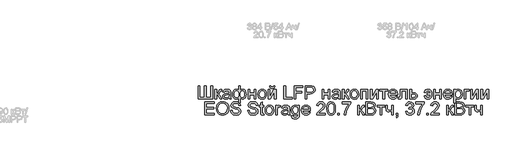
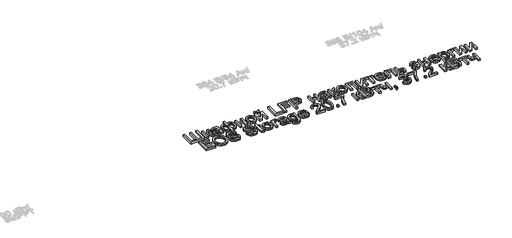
# One storey, part 25 of 26: 1 proxy.
"""IFC4 building model written with IfcOpenShell, lengths in millimetres."""

from ifc_helpers import new_model, si_unit, origin, origin_with_axes, place, context, project, spatial, polyline, outline, extrude, element, save

model = new_model("IFC4")

# Units and contexts
model_context = context("Model", 3, world=origin())
ifc_project = project(units=[si_unit("LENGTHUNIT", "METRE", prefix="MILLI")], contexts=[model_context])

# Site, building, storey
site = spatial("IfcSite", under=ifc_project)
building = spatial("IfcBuilding", under=site)
storey = spatial("IfcBuildingStorey", under=building, Name="Этаж 01", Elevation=0.0)

# Proxy
placement = place(None, origin())
element("IfcBuildingElementProxy", 1, Name="150 мм Arial", ObjectType="150 мм Arial", at=placement, inside=storey, context=model_context, shape_type="SweptSolid", body=[
    extrude(outline(polyline([(13904.114669, -6688.2513216), (13922.9502272, -6688.2513216), (13922.9502272, -6820.1002287), (13977.1024569, -6820.1002287), (13977.1024569, -6688.2513216), (13995.938015, -6688.2513216), (13995.938015, -6820.1002287), (14050.0902447, -6820.1002287), (14050.0902447, -6688.2513216), (14068.9258029, -6688.2513216), (14068.9258029, -6838.9357868), (13904.114669, -6838.9357868), (13904.114669, -6688.2513216)])), origin_with_axes(), (0.0, 0.0, 1.0), 20.0),
    extrude(outline(polyline([(14097.1791401, -6728.2768827), (14116.0146983, -6728.2768827), (14116.0146983, -6775.365778), (14128.6330507, -6771.9812637), (14138.9705348, -6752.2627887), (14147.5605794, -6735.2482465), (14155.1389485, -6729.7116224), (14168.9161292, -6728.2768827), (14172.5213727, -6728.2768827), (14172.5213727, -6747.2228054), (14167.4446012, -6747.1124408), (14158.2475513, -6749.0990036), (14151.7728282, -6761.4966268), (14144.176065, -6774.9059255), (14133.5258812, -6781.4726192), (14145.4084697, -6788.8026679), (14157.0703289, -6804.2445147), (14177.2302623, -6838.9357868), (14155.8195301, -6838.9357868), (14136.064267, -6804.9802787), (14126.1314531, -6790.6144867), (14116.0146983, -6787.1380019), (14116.0146983, -6838.9357868), (14097.1791401, -6838.9357868), (14097.1791401, -6728.2768827)])), origin_with_axes(), (0.0, 0.0, 1.0), 20.0),
    extrude(outline(polyline([(14259.6358292, -6824.8091182), (14241.3704881, -6837.5746234), (14221.1921607, -6841.2902316), (14205.4514098, -6839.0553485), (14193.8401344, -6832.3506991), (14186.680231, -6822.1695649), (14184.2935966, -6809.5052272), (14187.8988401, -6794.6060064), (14197.3718015, -6783.7902757), (14210.560371, -6777.6098582), (14226.8575434, -6774.7771668), (14259.5254646, -6768.3024437), (14259.6358292, -6764.108589), (14258.3390452, -6755.7024854), (14254.4486931, -6750.2026496), (14245.7482839, -6746.1191594), (14233.6265721, -6744.757996), (14214.5702848, -6748.3816337), (14205.4835995, -6761.2391094), (14186.6480413, -6758.8846647), (14194.7966275, -6740.4905649), (14211.2041645, -6729.7116224), (14236.0545933, -6725.9224379), (14258.8816711, -6729.270164), (14271.775935, -6737.6762676), (14277.5516824, -6750.460167), (14278.4713873, -6766.9412804), (14278.4713873, -6790.3753634), (14279.4278805, -6823.0984669), (14283.1802769, -6838.9357868), (14264.3447187, -6838.9357868), (14259.6358292, -6824.8091182)]), holes=[polyline([(14259.6358292, -6787.1380019), (14229.2487764, -6792.9137492), (14213.0435745, -6795.9671698), (14205.7043287, -6800.9335767), (14203.1291547, -6808.180852), (14208.7393552, -6818.3711833), (14225.2020744, -6822.4546734), (14244.2583618, -6817.948119), (14256.5456204, -6807.0404178), (14259.5254646, -6792.4722908), (14259.6358292, -6787.1380019)])]), origin_with_axes(), (0.0, 0.0, 1.0), 20.0),
    extrude(outline(polyline([(14367.9402886, -6688.2513216), (14386.7758467, -6688.2513216), (14386.7758467, -6738.9086723), (14398.7504057, -6729.1414053), (14412.7851038, -6725.9224379), (14429.2708157, -6730.0151251), (14441.9397519, -6742.2931867), (14450.0101632, -6760.7792569), (14452.7003003, -6783.4959701), (14449.8032295, -6806.9070606), (14441.1120174, -6825.3425471), (14428.1165859, -6837.3033105), (14412.3068572, -6841.2902316), (14400.7921507, -6839.4508216), (14386.7758467, -6829.4076431), (14386.7758467, -6881.3157927), (14367.9402886, -6881.3157927), (14367.9402886, -6829.4076431), (14355.9105473, -6838.3103874), (14341.6735141, -6841.2902316), (14325.8913765, -6837.4826529), (14312.2429545, -6826.059917), (14302.8067813, -6807.5462556), (14299.6613903, -6782.4659005), (14302.5078772, -6760.3837838), (14311.047338, -6742.1828221), (14324.3968559, -6729.9875339), (14341.6735141, -6725.9224379), (14356.2600352, -6729.1414053), (14367.9402886, -6738.9086723), (14367.9402886, -6688.2513216)]), holes=[polyline([(14386.6654821, -6783.9374285), (14388.2335791, -6803.0075115), (14392.9378701, -6814.6003928), (14400.005803, -6820.4911033), (14408.6648254, -6822.4546734), (14418.3447204, -6820.0404478), (14426.4887081, -6812.7977711), (14432.0207336, -6800.4691257), (14433.8647421, -6782.7969943), (14432.1632879, -6766.0399695), (14427.0589252, -6754.1757751), (14419.287418, -6747.1124408), (14409.5845304, -6744.757996), (14399.5919357, -6747.2090098), (14392.4228353, -6754.5620512), (14388.1048204, -6766.8079231), (14386.6654821, -6783.9374285)]), polyline([(14318.4969484, -6782.0612304), (14320.3823436, -6800.5381036), (14326.0385293, -6813.0001061), (14334.4906182, -6820.0910316), (14344.7637229, -6822.4546734), (14354.9862438, -6820.1048272), (14362.2565117, -6813.0552884), (14366.6021178, -6801.3060572), (14368.0506532, -6784.8571335), (14366.5285414, -6767.3137609), (14361.9622061, -6754.7827804), (14354.3240562, -6747.2641921), (14343.5865005, -6744.757996), (14333.5065338, -6747.2044113), (14325.4867063, -6754.5436571), (14320.2443879, -6766.315881), (14318.4969484, -6782.0612304)])]), origin_with_axes(), (0.0, 0.0, 1.0), 20.0),
    extrude(outline(polyline([(14476.2447479, -6728.2768827), (14495.0803061, -6728.2768827), (14495.0803061, -6770.6568885), (14544.5236463, -6770.6568885), (14544.5236463, -6728.2768827), (14563.3592044, -6728.2768827), (14563.3592044, -6838.9357868), (14544.5236463, -6838.9357868), (14544.5236463, -6789.4924467), (14495.0803061, -6789.4924467), (14495.0803061, -6838.9357868), (14476.2447479, -6838.9357868), (14476.2447479, -6728.2768827)])), origin_with_axes(), (0.0, 0.0, 1.0), 20.0),
    extrude(outline(polyline([(14586.9036521, -6783.6063347), (14590.9779452, -6756.925693), (14603.2008245, -6738.1729083), (14618.3023804, -6728.9850555), (14636.3837804, -6725.9224379), (14656.1712333, -6729.6518416), (14671.9763635, -6740.8400528), (14682.3368402, -6758.6041546), (14685.7903324, -6782.0612304), (14684.2636221, -6801.0899266), (14679.6834913, -6815.5752801), (14672.1832971, -6826.4232004), (14661.8963968, -6834.539597), (14649.678116, -6839.6025729), (14636.3837804, -6841.2902316), (14616.3572043, -6837.5746234), (14600.5704682, -6826.427799), (14590.3203561, -6808.2912166), (14586.9036521, -6783.6063347)]), holes=[polyline([(14605.7392102, -6783.5695465), (14607.9189111, -6800.6162785), (14614.4580135, -6812.7609829), (14624.2988569, -6820.0312508), (14636.3837804, -6822.4546734), (14648.4135217, -6820.0174552), (14658.235971, -6812.7058006), (14664.7750734, -6800.4001478), (14666.9547742, -6782.9809353), (14664.7612779, -6766.4308441), (14658.1807887, -6754.4516866), (14648.3445438, -6747.1814187), (14636.3837804, -6744.757996), (14624.2988569, -6747.1722216), (14614.4580135, -6754.4148984), (14607.9189111, -6766.5320116), (14605.7392102, -6783.5695465)])]), origin_with_axes(), (0.0, 0.0, 1.0), 20.0),
    extrude(outline(polyline([(14706.9803353, -6728.2768827), (14725.8158935, -6728.2768827), (14725.8158935, -6812.6690124), (14772.0954485, -6728.2768827), (14796.4492365, -6728.2768827), (14796.4492365, -6838.9357868), (14777.6136784, -6838.9357868), (14777.6136784, -6755.0586919), (14731.628429, -6838.9357868), (14706.9803353, -6838.9357868), (14706.9803353, -6728.2768827)])), origin_with_axes(), (0.0, 0.0, 1.0), 20.0),
    extrude(outline(polyline([(14768.1958993, -6688.2513216), (14782.3225679, -6688.2513216), (14779.2829429, -6700.3132525), (14773.1807004, -6709.2022012), (14764.2917516, -6714.6790444), (14752.8920083, -6716.5046588), (14740.5219762, -6714.69284), (14730.9294532, -6709.2573835), (14724.3719566, -6700.3822304), (14721.1070039, -6688.2513216), (14735.2336726, -6688.2513216), (14740.5311733, -6698.8647171), (14751.1997511, -6702.3779902), (14762.8983986, -6698.9750817), (14768.1958993, -6688.2513216)])), origin_with_axes(), (0.0, 0.0, 1.0), 20.0),
    extrude(outline(polyline([(14885.9181378, -6838.9357868), (14885.9181378, -6688.2513216), (14904.7536959, -6688.2513216), (14904.7536959, -6820.1002287), (14980.0959285, -6820.1002287), (14980.0959285, -6838.9357868), (14885.9181378, -6838.9357868)])), origin_with_axes(), (0.0, 0.0, 1.0), 20.0),
    extrude(outline(polyline([(15001.2859315, -6838.9357868), (15001.2859315, -6688.2513216), (15102.5270565, -6688.2513216), (15102.5270565, -6707.0868797), (15020.1214896, -6707.0868797), (15020.1214896, -6751.8213303), (15090.7548327, -6751.8213303), (15090.7548327, -6770.6568885), (15020.1214896, -6770.6568885), (15020.1214896, -6838.9357868), (15001.2859315, -6838.9357868)])), origin_with_axes(), (0.0, 0.0, 1.0), 20.0),
    extrude(outline(polyline([(15128.425949, -6838.9357868), (15128.425949, -6688.2513216), (15184.2704359, -6688.2513216), (15206.784814, -6689.6860614), (15225.0869432, -6696.7310016), (15236.9511376, -6711.2991286), (15241.4392979, -6731.845338), (15238.40887, -6749.6048413), (15229.3175862, -6764.4028946), (15212.3168395, -6774.3908908), (15185.5580228, -6777.7202228), (15147.2615072, -6777.7202228), (15147.2615072, -6838.9357868), (15128.425949, -6838.9357868)]), holes=[polyline([(15147.2615072, -6758.8846647), (15186.6616688, -6758.8846647), (15203.3635114, -6757.1556193), (15214.3999713, -6751.9684831), (15220.5527976, -6743.645153), (15222.6037398, -6732.5075256), (15217.7660915, -6716.909329), (15205.0557686, -6708.3744667), (15186.2202104, -6707.0868797), (15147.2615072, -6707.0868797), (15147.2615072, -6758.8846647)])]), origin_with_axes(), (0.0, 0.0, 1.0), 20.0),
    extrude(outline(polyline([(15323.8448648, -6728.2768827), (15342.680423, -6728.2768827), (15342.680423, -6770.6568885), (15392.1237631, -6770.6568885), (15392.1237631, -6728.2768827), (15410.9593213, -6728.2768827), (15410.9593213, -6838.9357868), (15392.1237631, -6838.9357868), (15392.1237631, -6789.4924467), (15342.680423, -6789.4924467), (15342.680423, -6838.9357868), (15323.8448648, -6838.9357868), (15323.8448648, -6728.2768827)])), origin_with_axes(), (0.0, 0.0, 1.0), 20.0),
    extrude(outline(polyline([(15509.8460016, -6824.8091182), (15491.5806605, -6837.5746234), (15471.4023331, -6841.2902316), (15455.6615822, -6839.0553485), (15444.0503068, -6832.3506991), (15436.8904034, -6822.1695649), (15434.503769, -6809.5052272), (15438.1090125, -6794.6060064), (15447.5819739, -6783.7902757), (15460.7705434, -6777.6098582), (15477.0677158, -6774.7771668), (15509.735637, -6768.3024437), (15509.8460016, -6764.108589), (15508.5492176, -6755.7024854), (15504.6588655, -6750.2026496), (15495.9584563, -6746.1191594), (15483.8367445, -6744.757996), (15464.7804572, -6748.3816337), (15455.6937719, -6761.2391094), (15436.8582138, -6758.8846647), (15445.0067999, -6740.4905649), (15461.4143369, -6729.7116224), (15486.2647657, -6725.9224379), (15509.0918435, -6729.270164), (15521.9861074, -6737.6762676), (15527.7618548, -6750.460167), (15528.6815597, -6766.9412804), (15528.6815597, -6790.3753634), (15529.6380529, -6823.0984669), (15533.3904493, -6838.9357868), (15514.5548911, -6838.9357868), (15509.8460016, -6824.8091182)]), holes=[polyline([(15509.8460016, -6787.1380019), (15479.4589488, -6792.9137492), (15463.2537469, -6795.9671698), (15455.9145011, -6800.9335767), (15453.3393271, -6808.180852), (15458.9495276, -6818.3711833), (15475.4122468, -6822.4546734), (15494.4685342, -6817.948119), (15506.7557928, -6807.0404178), (15509.735637, -6792.4722908), (15509.8460016, -6787.1380019)])]), origin_with_axes(), (0.0, 0.0, 1.0), 20.0),
    extrude(outline(polyline([(15554.5804522, -6728.2768827), (15573.4160104, -6728.2768827), (15573.4160104, -6775.365778), (15586.0343628, -6771.9812637), (15596.3718469, -6752.2627887), (15604.9618914, -6735.2482465), (15612.5402605, -6729.7116224), (15626.3174413, -6728.2768827), (15629.9226848, -6728.2768827), (15629.9226848, -6747.2228054), (15624.8459133, -6747.1124408), (15615.6488634, -6749.0990036), (15609.1741403, -6761.4966268), (15601.5773771, -6774.9059255), (15590.9271933, -6781.4726192), (15602.8097818, -6788.8026679), (15614.471641, -6804.2445147), (15634.6315744, -6838.9357868), (15613.2208422, -6838.9357868), (15593.4655791, -6804.9802787), (15583.5327652, -6790.6144867), (15573.4160104, -6787.1380019), (15573.4160104, -6838.9357868), (15554.5804522, -6838.9357868), (15554.5804522, -6728.2768827)])), origin_with_axes(), (0.0, 0.0, 1.0), 20.0),
    extrude(outline(polyline([(15641.6949087, -6783.6063347), (15645.7692018, -6756.925693), (15657.9920811, -6738.1729083), (15673.093637, -6728.9850555), (15691.175037, -6725.9224379), (15710.9624898, -6729.6518416), (15726.7676201, -6740.8400528), (15737.1280967, -6758.6041546), (15740.581589, -6782.0612304), (15739.0548787, -6801.0899266), (15734.4747479, -6815.5752801), (15726.9745537, -6826.4232004), (15716.6876534, -6834.539597), (15704.4693726, -6839.6025729), (15691.175037, -6841.2902316), (15671.1484609, -6837.5746234), (15655.3617248, -6826.427799), (15645.1116127, -6808.2912166), (15641.6949087, -6783.6063347)]), holes=[polyline([(15660.5304668, -6783.5695465), (15662.7101676, -6800.6162785), (15669.2492701, -6812.7609829), (15679.0901135, -6820.0312508), (15691.175037, -6822.4546734), (15703.2047783, -6820.0174552), (15713.0272275, -6812.7058006), (15719.56633, -6800.4001478), (15721.7460308, -6782.9809353), (15719.5525344, -6766.4308441), (15712.9720452, -6754.4516866), (15703.1358004, -6747.1814187), (15691.175037, -6744.757996), (15679.0901135, -6747.1722216), (15669.2492701, -6754.4148984), (15662.7101676, -6766.5320116), (15660.5304668, -6783.5695465)])]), origin_with_axes(), (0.0, 0.0, 1.0), 20.0),
    extrude(outline(polyline([(15761.7715919, -6728.2768827), (15846.5316036, -6728.2768827), (15846.5316036, -6838.9357868), (15827.6960454, -6838.9357868), (15827.6960454, -6747.1124408), (15780.60715, -6747.1124408), (15780.60715, -6838.9357868), (15761.7715919, -6838.9357868), (15761.7715919, -6728.2768827)])), origin_with_axes(), (0.0, 0.0, 1.0), 20.0),
    extrude(outline(polyline([(15874.7849408, -6728.2768827), (15893.620499, -6728.2768827), (15893.620499, -6812.6690124), (15939.900054, -6728.2768827), (15964.253842, -6728.2768827), (15964.253842, -6838.9357868), (15945.4182839, -6838.9357868), (15945.4182839, -6755.0586919), (15899.4330345, -6838.9357868), (15874.7849408, -6838.9357868), (15874.7849408, -6728.2768827)])), origin_with_axes(), (0.0, 0.0, 1.0), 20.0),
    extrude(outline(polyline([(15983.0894002, -6728.2768827), (16072.5583014, -6728.2768827), (16072.5583014, -6747.1124408), (16037.2416299, -6747.1124408), (16037.2416299, -6838.9357868), (16018.4060717, -6838.9357868), (16018.4060717, -6747.1124408), (15983.0894002, -6747.1124408), (15983.0894002, -6728.2768827)])), origin_with_axes(), (0.0, 0.0, 1.0), 20.0),
    extrude(outline(polyline([(16166.515363, -6805.97356), (16184.9830391, -6808.3280048), (16178.3289736, -6822.2431413), (16167.7109795, -6832.6450047), (16153.3681802, -6839.1289249), (16135.539699, -6841.2902316), (16113.4391881, -6837.5608279), (16096.4338429, -6826.3726167), (16085.5905211, -6808.452165), (16081.9760805, -6784.5260397), (16085.6273093, -6759.7951726), (16096.5809957, -6741.2999053), (16113.3564147, -6729.7668047), (16134.4728412, -6725.9224379), (16154.9316787, -6729.7576077), (16171.2794348, -6741.2631171), (16181.9985965, -6759.7215962), (16185.5716503, -6784.4156751), (16185.4612857, -6789.4924467), (16100.8116386, -6789.4924467), (16104.0719928, -6803.5915241), (16111.6457634, -6813.9565993), (16122.5764572, -6820.3301549), (16135.907581, -6822.4546734), (16154.3752571, -6818.5183361), (16166.515363, -6805.97356)]), holes=[polyline([(16100.8116386, -6770.6568885), (16166.7360922, -6770.6568885), (16164.1885094, -6760.7056805), (16159.1945113, -6753.5871639), (16148.2132337, -6746.965288), (16134.3992648, -6744.757996), (16121.7027374, -6746.5192311), (16111.204305, -6751.8029362), (16103.9064459, -6760.0388944), (16100.8116386, -6770.6568885)])]), origin_with_axes(), (0.0, 0.0, 1.0), 20.0),
    extrude(outline(polyline([(16213.8249876, -6728.2768827), (16298.5849993, -6728.2768827), (16298.5849993, -6838.8254222), (16279.7494411, -6838.8254222), (16279.7494411, -6747.1124408), (16232.6605457, -6747.1124408), (16232.6605457, -6799.9035071), (16231.3913528, -6824.2572952), (16224.419989, -6834.539597), (16207.9388756, -6838.9357868), (16192.6349846, -6837.9792936), (16192.6349846, -6820.1002287), (16201.0594823, -6820.1002287), (16209.5759505, -6818.9414004), (16212.978859, -6815.2625804), (16213.8249876, -6798.8366493), (16213.8249876, -6728.2768827)])), origin_with_axes(), (0.0, 0.0, 1.0), 20.0),
    extrude(outline(polyline([(16326.8383365, -6728.2768827), (16345.6738946, -6728.2768827), (16345.6738946, -6768.3024437), (16367.3789324, -6768.3024437), (16386.1960964, -6770.661487), (16400.1204299, -6777.7386169), (16408.7288686, -6788.9636163), (16411.5983482, -6803.7662681), (16409.1565314, -6817.2445447), (16401.8310812, -6828.6166968), (16389.1345538, -6836.3560143), (16370.5795057, -6838.9357868), (16326.8383365, -6838.9357868), (16326.8383365, -6728.2768827)]), holes=[polyline([(16345.6738946, -6820.1002287), (16363.258654, -6820.1002287), (16385.9753672, -6816.1454972), (16391.0659343, -6811.0825212), (16392.76279, -6803.8030563), (16387.7412008, -6792.2147734), (16379.6707895, -6788.4071948), (16365.5027342, -6787.1380019), (16345.6738946, -6787.1380019), (16345.6738946, -6820.1002287)])]), origin_with_axes(), (0.0, 0.0, 1.0), 20.0),
    extrude(outline(polyline([(16524.6116971, -6770.6568885), (16559.9283686, -6770.6568885), (16557.0266994, -6760.2228354), (16551.4119004, -6751.950089), (16543.4518538, -6746.5560193), (16533.5144414, -6744.757996), (16518.2473386, -6749.4668856), (16510.4850285, -6763.5935542), (16491.6494703, -6761.2391094), (16496.0410616, -6747.0986452), (16504.5805225, -6735.8000695), (16516.8355914, -6728.3918458), (16532.3740072, -6725.9224379), (16551.60044, -6729.7668047), (16566.3111212, -6741.2999053), (16575.6507254, -6759.5652463), (16578.7639268, -6783.6063347), (16576.1933513, -6807.5370585), (16567.3044026, -6826.3542226), (16552.7776623, -6838.2184169), (16533.2937122, -6841.2902316), (16516.5918696, -6838.5357151), (16503.4216942, -6830.2721658), (16494.1878561, -6817.5112591), (16489.2950256, -6801.2646705), (16508.1305837, -6798.9102257), (16511.1058293, -6809.2109216), (16516.2423817, -6816.5685615), (16523.5402408, -6820.9831454), (16532.9994066, -6822.4546734), (16543.6403933, -6820.3945343), (16551.6510237, -6814.2141167), (16557.0680861, -6803.9134209), (16559.9283686, -6789.4924467), (16524.6116971, -6789.4924467), (16524.6116971, -6770.6568885)])), origin_with_axes(), (0.0, 0.0, 1.0), 20.0),
    extrude(outline(polyline([(16599.9539297, -6728.2768827), (16618.7894879, -6728.2768827), (16618.7894879, -6770.6568885), (16668.232828, -6770.6568885), (16668.232828, -6728.2768827), (16687.0683862, -6728.2768827), (16687.0683862, -6838.9357868), (16668.232828, -6838.9357868), (16668.232828, -6789.4924467), (16618.7894879, -6789.4924467), (16618.7894879, -6838.9357868), (16599.9539297, -6838.9357868), (16599.9539297, -6728.2768827)])), origin_with_axes(), (0.0, 0.0, 1.0), 20.0),
    extrude(outline(polyline([(16792.7976716, -6805.97356), (16811.2653477, -6808.3280048), (16804.6112821, -6822.2431413), (16793.9932881, -6832.6450047), (16779.6504888, -6839.1289249), (16761.8220076, -6841.2902316), (16739.7214967, -6837.5608279), (16722.7161515, -6826.3726167), (16711.8728297, -6808.452165), (16708.2583891, -6784.5260397), (16711.9096179, -6759.7951726), (16722.8633043, -6741.2999053), (16739.6387233, -6729.7668047), (16760.7551498, -6725.9224379), (16781.2139873, -6729.7576077), (16797.5617434, -6741.2631171), (16808.280905, -6759.7215962), (16811.8539589, -6784.4156751), (16811.7435943, -6789.4924467), (16727.0939472, -6789.4924467), (16730.3543014, -6803.5915241), (16737.928072, -6813.9565993), (16748.8587658, -6820.3301549), (16762.1898896, -6822.4546734), (16780.6575657, -6818.5183361), (16792.7976716, -6805.97356)]), holes=[polyline([(16727.0939472, -6770.6568885), (16793.0184008, -6770.6568885), (16790.470818, -6760.7056805), (16785.4768199, -6753.5871639), (16774.4955423, -6746.965288), (16760.6815734, -6744.757996), (16747.985046, -6746.5192311), (16737.4866136, -6751.8029362), (16730.1887545, -6760.0388944), (16727.0939472, -6770.6568885)])]), origin_with_axes(), (0.0, 0.0, 1.0), 20.0),
    extrude(outline(polyline([(16830.6895171, -6881.3157927), (16830.6895171, -6728.2768827), (16849.5250752, -6728.2768827), (16849.5250752, -6746.7445588), (16862.5480979, -6731.1279681), (16880.1328572, -6725.9224379), (16892.8707713, -6727.7434538), (16904.0083987, -6733.2065014), (16913.0766899, -6741.980487), (16919.6065953, -6753.7343167), (16924.8673078, -6782.7602061), (16923.3819843, -6798.868839), (16918.9260136, -6813.2760176), (16911.6419501, -6825.2505766), (16901.672348, -6834.0613504), (16890.0610726, -6839.4830113), (16877.8519889, -6841.2902316), (16861.462846, -6836.4525833), (16849.5250752, -6824.220507), (16849.5250752, -6881.3157927), (16830.6895171, -6881.3157927)]), holes=[polyline([(16849.5250752, -6784.4892515), (16851.5622218, -6801.3750351), (16857.6736614, -6813.1840471), (16866.6913688, -6820.1370169), (16877.4473187, -6822.4546734), (16888.3780124, -6820.0542434), (16897.6256461, -6812.8529533), (16903.9302238, -6800.61168), (16906.0317497, -6783.0912999), (16903.9808076, -6766.2974869), (16897.8279812, -6754.3229279), (16888.8240694, -6747.149229), (16878.2198709, -6744.757996), (16867.5742856, -6747.3009803), (16858.2254844, -6754.9299332), (16851.7001775, -6767.4057314), (16849.5250752, -6784.4892515)])]), origin_with_axes(), (0.0, 0.0, 1.0), 20.0),
    extrude(outline(polyline([(16946.0573108, -6728.2768827), (17007.2728748, -6728.2768827), (17007.2728748, -6747.1124408), (16964.8928689, -6747.1124408), (16964.8928689, -6838.9357868), (16946.0573108, -6838.9357868), (16946.0573108, -6728.2768827)])), origin_with_axes(), (0.0, 0.0, 1.0), 20.0),
    extrude(outline(polyline([(17021.3995434, -6728.2768827), (17040.2351015, -6728.2768827), (17040.2351015, -6812.6690124), (17086.5146565, -6728.2768827), (17110.8684446, -6728.2768827), (17110.8684446, -6838.9357868), (17092.0328865, -6838.9357868), (17092.0328865, -6755.0586919), (17046.0476371, -6838.9357868), (17021.3995434, -6838.9357868), (17021.3995434, -6728.2768827)])), origin_with_axes(), (0.0, 0.0, 1.0), 20.0),
    extrude(outline(polyline([(17139.1217818, -6728.2768827), (17157.95734, -6728.2768827), (17157.95734, -6812.6690124), (17204.236895, -6728.2768827), (17228.5906831, -6728.2768827), (17228.5906831, -6838.9357868), (17209.7551249, -6838.9357868), (17209.7551249, -6755.0586919), (17163.7698755, -6838.9357868), (17139.1217818, -6838.9357868), (17139.1217818, -6728.2768827)])), origin_with_axes(), (0.0, 0.0, 1.0), 20.0),
    extrude(outline(polyline([(13980.634124, -7021.8980136), (13980.634124, -6871.2135484), (14088.9385834, -6871.2135484), (14088.9385834, -6890.0491065), (13999.4696822, -6890.0491065), (13999.4696822, -6934.7835571), (14084.2296939, -6934.7835571), (14084.2296939, -6953.6191153), (13999.4696822, -6953.6191153), (13999.4696822, -7003.0624554), (14091.2930282, -7003.0624554), (14091.2930282, -7021.8980136), (13980.634124, -7021.8980136)])), origin_with_axes(), (0.0, 0.0, 1.0), 20.0),
    extrude(outline(polyline([(14112.4830311, -6948.5423437), (14117.5046204, -6915.221432), (14123.7816069, -6901.6029004), (14132.5693881, -6890.0123183), (14155.5712098, -6874.1474073), (14184.4039612, -6868.8591036), (14204.1684214, -6871.342307), (14221.8911365, -6878.7919175), (14236.6064163, -6890.6837029), (14247.3485705, -6906.4934317), (14253.9152642, -6925.4577485), (14256.104162, -6946.8132984), (14253.800301, -6968.4539567), (14246.8887181, -6987.684988), (14235.7510907, -7003.5223079), (14220.7690964, -7014.9818321), (14203.1981326, -7021.9348018), (14184.2935966, -7024.2524583), (14164.2256337, -7021.69108), (14146.4017511, -7014.0069448), (14131.7232595, -7001.8944301), (14121.0914698, -6986.0479131), (14114.6351408, -6967.8147618), (14112.4830311, -6948.5423437)]), holes=[polyline([(14131.3185893, -6948.7262847), (14135.0847812, -6972.2983236), (14146.383357, -6990.260162), (14163.3657096, -7001.6277156), (14184.183232, -7005.4169002), (14205.304257, -7001.5909274), (14222.3142008, -6990.1130092), (14233.5300031, -6971.5993478), (14237.2686039, -6946.6661456), (14235.6683172, -6929.9918941), (14230.8674572, -6915.580117), (14222.9901839, -6903.7940975), (14212.1606577, -6894.9971193), (14199.0962484, -6889.5202761), (14184.5143258, -6887.6946617), (14164.2532249, -6891.2125333), (14147.0271505, -6901.7661481), (14135.2457296, -6920.5419254), (14131.3185893, -6948.7262847)])]), origin_with_axes(), (0.0, 0.0, 1.0), 20.0),
    extrude(outline(polyline([(14274.9397202, -6970.1002287), (14293.7752783, -6970.1002287), (14299.8453313, -6988.9541809), (14314.6709757, -7000.8735576), (14337.2589302, -7005.4169002), (14356.9406169, -7001.9772035), (14369.6509398, -6992.5226363), (14373.8264005, -6979.8858897), (14370.6994035, -6968.13206), (14357.8971101, -6959.5788036), (14330.4715074, -6952.3867106), (14300.9489772, -6943.0976902), (14284.9277164, -6929.0813862), (14279.6486097, -6910.3561926), (14281.2810861, -6899.3243313), (14286.1785151, -6889.037431), (14294.2121382, -6880.3186277), (14305.2531966, -6873.9910574), (14333.17544, -6868.8591036), (14362.9738816, -6874.2301807), (14374.3966176, -6880.8612537), (14382.8395094, -6890.0123183), (14388.1829954, -6901.1131575), (14390.3075139, -6913.5935542), (14371.4719557, -6913.5935542), (14368.013865, -6902.3547592), (14360.8033779, -6894.2429612), (14349.5369918, -6889.3317366), (14333.911204, -6887.6946617), (14317.9175343, -6889.3133425), (14306.9454538, -6894.1693849), (14300.5994894, -6901.3154926), (14298.4841679, -6909.8043696), (14299.983287, -6917.0424479), (14304.4806444, -6922.8641805), (14335.2355792, -6933.3856055), (14368.565688, -6942.8401728), (14379.3032437, -6949.6735809), (14386.7942408, -6958.1072756), (14391.1950292, -6968.0492865), (14392.6619586, -6979.4076431), (14390.9743, -6991.0189186), (14385.911324, -7001.9404153), (14377.6799644, -7011.3398003), (14366.4871547, -7018.3847405), (14353.0272722, -7022.7855289), (14337.9946942, -7024.2524583), (14319.5408136, -7022.6705658), (14304.3518857, -7017.924888), (14292.2531666, -7009.997031), (14283.0699123, -6998.8686007), (14277.1746033, -6985.3121492), (14274.9397202, -6970.1002287)])), origin_with_axes(), (0.0, 0.0, 1.0), 20.0),
    extrude(outline(polyline([(14472.7130808, -6970.1002287), (14491.5486389, -6970.1002287), (14497.6186919, -6988.9541809), (14512.4443363, -7000.8735576), (14535.0322908, -7005.4169002), (14554.7139775, -7001.9772035), (14567.4243005, -6992.5226363), (14571.5997611, -6979.8858897), (14568.4727641, -6968.13206), (14555.6704707, -6959.5788036), (14528.244868, -6952.3867106), (14498.7223379, -6943.0976902), (14482.701077, -6929.0813862), (14477.4219703, -6910.3561926), (14479.0544467, -6899.3243313), (14483.9518757, -6889.037431), (14491.9854988, -6880.3186277), (14503.0265572, -6873.9910574), (14530.9488006, -6868.8591036), (14560.7472422, -6874.2301807), (14572.1699782, -6880.8612537), (14580.61287, -6890.0123183), (14585.956356, -6901.1131575), (14588.0808745, -6913.5935542), (14569.2453163, -6913.5935542), (14565.7872256, -6902.3547592), (14558.5767385, -6894.2429612), (14547.3103524, -6889.3317366), (14531.6845646, -6887.6946617), (14515.6908949, -6889.3133425), (14504.7188144, -6894.1693849), (14498.37285, -6901.3154926), (14496.2575285, -6909.8043696), (14497.7566476, -6917.0424479), (14502.254005, -6922.8641805), (14533.0089398, -6933.3856055), (14566.3390486, -6942.8401728), (14577.0766043, -6949.6735809), (14584.5676014, -6958.1072756), (14588.9683898, -6968.0492865), (14590.4353193, -6979.4076431), (14588.7476606, -6991.0189186), (14583.6846846, -7001.9404153), (14575.453325, -7011.3398003), (14564.2605153, -7018.3847405), (14550.8006328, -7022.7855289), (14535.7680548, -7024.2524583), (14517.3141742, -7022.6705658), (14502.1252463, -7017.924888), (14490.0265272, -7009.997031), (14480.8432729, -6998.8686007), (14474.9479639, -6985.3121492), (14472.7130808, -6970.1002287)])), origin_with_axes(), (0.0, 0.0, 1.0), 20.0),
    extrude(outline(polyline([(14656.3597728, -7006.1894524), (14658.7142176, -7022.4498366), (14644.6243371, -7024.2524583), (14628.8421995, -7021.1254614), (14620.9695249, -7012.9216929), (14618.6886565, -6991.547749), (14618.6886565, -6930.0746676), (14604.5619879, -6930.0746676), (14604.5619879, -6911.2391094), (14618.6886565, -6911.2391094), (14618.6886565, -6884.3469356), (14637.5242146, -6873.2736875), (14637.5242146, -6911.2391094), (14656.3597728, -6911.2391094), (14656.3597728, -6930.0746676), (14637.5242146, -6930.0746676), (14637.5242146, -6990.995926), (14638.517496, -7000.7080107), (14641.7364635, -7004.1477073), (14648.1560043, -7005.4169002), (14656.3597728, -7006.1894524)])), origin_with_axes(), (0.0, 0.0, 1.0), 20.0),
    extrude(outline(polyline([(14670.4864414, -6966.5685615), (14674.5607345, -6939.8879198), (14686.7836138, -6921.1351351), (14701.8851697, -6911.9472823), (14719.9665698, -6908.8846647), (14739.7540226, -6912.6140684), (14755.5591528, -6923.8022796), (14765.9196295, -6941.5663814), (14769.3731217, -6965.0234571), (14767.8464114, -6984.0521533), (14763.2662806, -6998.5375069), (14755.7660864, -7009.3854272), (14745.4791861, -7017.5018237), (14733.2609054, -7022.5647997), (14719.9665698, -7024.2524583), (14699.9399936, -7020.5368502), (14684.1532575, -7009.3900257), (14673.9031454, -6991.2534434), (14670.4864414, -6966.5685615)]), holes=[polyline([(14689.3219996, -6966.5317733), (14691.5017004, -6983.5785053), (14698.0408028, -6995.7232096), (14707.8816462, -7002.9934775), (14719.9665698, -7005.4169002), (14731.996311, -7002.979682), (14741.8187603, -6995.6680273), (14748.3578627, -6983.3623746), (14750.5375636, -6965.9431621), (14748.3440672, -6949.3930709), (14741.763578, -6937.4139134), (14731.9273331, -6930.1436455), (14719.9665698, -6927.7202228), (14707.8816462, -6930.1344484), (14698.0408028, -6937.3771252), (14691.5017004, -6949.4942384), (14689.3219996, -6966.5317733)])]), origin_with_axes(), (0.0, 0.0, 1.0), 20.0),
    extrude(outline(polyline([(14790.5631246, -7021.8980136), (14790.5631246, -6911.2391094), (14807.044238, -6911.2391094), (14807.044238, -6927.6098582), (14818.7428855, -6912.5266964), (14830.5151093, -6908.8846647), (14849.4242439, -6914.6972002), (14843.1334617, -6931.5829838), (14829.8897099, -6927.7202228), (14819.2395262, -6931.435831), (14812.4521033, -6941.7365268), (14809.3986828, -6963.7358701), (14809.3986828, -7021.8980136), (14790.5631246, -7021.8980136)])), origin_with_axes(), (0.0, 0.0, 1.0), 20.0),
    extrude(outline(polyline([(14931.8298108, -7007.771345), (14913.5644697, -7020.5368502), (14893.3861423, -7024.2524583), (14877.6453914, -7022.0175752), (14866.0341159, -7015.3129259), (14858.8742126, -7005.1317916), (14856.4875782, -6992.467454), (14860.0928217, -6977.5682332), (14869.5657831, -6966.7525025), (14882.7543526, -6960.572085), (14899.051525, -6957.7393936), (14931.7194462, -6951.2646705), (14931.8298108, -6947.0708158), (14930.5330267, -6938.6647122), (14926.6426746, -6933.1648763), (14917.9422655, -6929.0813862), (14905.8205537, -6927.7202228), (14886.7642664, -6931.3438605), (14877.6775811, -6944.2013362), (14858.8420229, -6941.8468914), (14866.9906091, -6923.4527917), (14883.3981461, -6912.6738492), (14908.2485749, -6908.8846647), (14931.0756527, -6912.2323908), (14943.9699166, -6920.6384944), (14949.7456639, -6933.4223937), (14950.6653689, -6949.9035071), (14950.6653689, -6973.3375902), (14951.6218621, -7006.0606937), (14955.3742585, -7021.8980136), (14936.5387003, -7021.8980136), (14931.8298108, -7007.771345)]), holes=[polyline([(14931.8298108, -6970.1002287), (14901.442758, -6975.875976), (14885.2375561, -6978.9293965), (14877.8983103, -6983.8958035), (14875.3231363, -6991.1430788), (14880.9333367, -7001.33341), (14897.396056, -7005.4169002), (14916.4523434, -7000.9103458), (14928.739602, -6990.0026446), (14931.7194462, -6975.4345176), (14931.8298108, -6970.1002287)])]), origin_with_axes(), (0.0, 0.0, 1.0), 20.0),
    extrude(outline(polyline([(14971.8553718, -7031.3157927), (14990.69093, -7033.6702374), (14996.7977711, -7043.6030513), (15015.0815063, -7047.796906), (15034.3585228, -7043.0512283), (15043.5555727, -7029.7339001), (15044.8431597, -7007.771345), (15031.5810138, -7018.3663464), (15015.4126001, -7021.8980136), (14995.9930293, -7017.7869323), (14981.5122742, -7005.4536884), (14972.5037639, -6987.3722883), (14969.5009271, -6966.0167385), (14974.8903983, -6936.8253022), (14981.4846831, -6924.9749034), (14990.4885949, -6916.1687282), (15001.5940326, -6910.7056805), (15014.4928951, -6908.8846647), (15031.2959052, -6913.004943), (15044.8431597, -6925.365778), (15044.8431597, -6911.2391094), (15063.6787178, -6911.2391094), (15063.6787178, -7006.7780636), (15062.3911309, -7028.8371877), (15058.5283699, -7043.363928), (15051.8743043, -7052.9978377), (15042.2128034, -7060.3784703), (15029.7553994, -7065.0689657), (15014.7136243, -7066.6324642), (14997.1886457, -7064.4297707), (14983.3884724, -7057.8216904), (14974.5363119, -7046.7898291), (14971.8553718, -7031.3157927)]), holes=[polyline([(14988.3364852, -6964.7291515), (14990.3460406, -6982.0058097), (14996.3747068, -6993.8837996), (15005.4383995, -7000.7677915), (15016.5530343, -7003.0624554), (15027.5848956, -7000.7815871), (15036.6945735, -6993.9389819), (15042.8060131, -6982.2127433), (15044.8431597, -6965.2809745), (15042.7462323, -6948.9516125), (15036.4554502, -6937.1931842), (15027.2124151, -6930.0884632), (15016.2587287, -6927.7202228), (15005.5027788, -6930.051675), (14996.4850714, -6937.0460314), (14990.3736318, -6948.6297157), (14988.3364852, -6964.7291515)])]), origin_with_axes(), (0.0, 0.0, 1.0), 20.0),
    extrude(outline(polyline([(15169.4080033, -6988.9357868), (15187.8756794, -6991.2902316), (15181.2216138, -7005.205368), (15170.6036197, -7015.6072315), (15156.2608205, -7022.0911516), (15138.4323393, -7024.2524583), (15116.3318284, -7020.5230546), (15099.3264832, -7009.3348434), (15088.4831614, -6991.4143918), (15084.8687208, -6967.4882665), (15088.5199496, -6942.7573994), (15099.473636, -6924.2621321), (15116.249055, -6912.7290315), (15137.3654815, -6908.8846647), (15157.8243189, -6912.7198345), (15174.1720751, -6924.2253439), (15184.8912367, -6942.683823), (15188.4642906, -6967.3779019), (15188.353926, -6972.4546734), (15103.7042789, -6972.4546734), (15106.9646331, -6986.5537509), (15114.5384037, -6996.9188261), (15125.4690975, -7003.2923817), (15138.8002213, -7005.4169002), (15157.2678974, -7001.4805628), (15169.4080033, -6988.9357868)]), holes=[polyline([(15103.7042789, -6953.6191153), (15169.6287325, -6953.6191153), (15167.0811496, -6943.6679073), (15162.0871516, -6936.5493907), (15151.105874, -6929.9275148), (15137.2919051, -6927.7202228), (15124.5953777, -6929.4814579), (15114.0969453, -6934.765163), (15106.7990862, -6943.0011212), (15103.7042789, -6953.6191153)])]), origin_with_axes(), (0.0, 0.0, 1.0), 20.0),
    extrude(outline(polyline([(15357.984314, -7003.0624554), (15357.984314, -7021.8980136), (15259.0976337, -7021.8980136), (15261.1209847, -7008.9117791), (15272.5621147, -6988.9173927), (15296.1433506, -6967.0835963), (15328.664119, -6935.7032621), (15334.761763, -6924.8875314), (15336.7943111, -6914.3661064), (15334.8767262, -6904.9345317), (15329.1239715, -6897.0940467), (15320.281008, -6891.8103416), (15309.0927968, -6890.0491065), (15297.3435656, -6891.7689548), (15288.2154936, -6896.9284998), (15282.3247832, -6905.1230713), (15280.2876366, -6915.947999), (15261.4520785, -6913.5935542), (15266.0184137, -6895.3741984), (15275.8914468, -6882.0660672), (15290.5561428, -6873.9266781), (15309.497467, -6871.2135484), (15328.576747, -6874.2301807), (15343.2138519, -6883.2800778), (15352.5258649, -6896.7997411), (15355.6298692, -6913.2256722), (15352.2821431, -6931.0863431), (15341.1537127, -6949.5540192), (15314.1695684, -6975.3609412), (15292.5013188, -6993.4791294), (15284.0032448, -7003.0624554), (15357.984314, -7003.0624554)])), origin_with_axes(), (0.0, 0.0, 1.0), 20.0),
    extrude(outline(polyline([(15376.8198721, -6947.7697915), (15378.2040281, -6923.6505282), (15382.3564962, -6904.4148984), (15389.2358895, -6889.7685965), (15398.8008214, -6879.4173168), (15411.1202697, -6873.2644905), (15426.2632123, -6871.2135484), (15448.2625556, -6876.0695907), (15463.456082, -6890.0675006), (15472.2852499, -6912.3611495), (15475.7065524, -6947.7697915), (15474.336192, -6971.7510991), (15470.2251107, -6990.9407437), (15463.3871041, -7005.6008412), (15453.8359678, -7015.9935076), (15441.4889284, -7022.1877206), (15426.2632123, -7024.2524583), (15406.6918901, -7020.6656089), (15391.8294575, -7009.9050605), (15380.5722685, -6984.4200353), (15376.8198721, -6947.7697915)]), holes=[polyline([(15395.6554303, -6947.7330033), (15397.8627223, -6977.3612995), (15404.4845982, -6994.509199), (15414.3438356, -7002.6899749), (15426.2632123, -7005.4169002), (15438.1825889, -7002.6807779), (15448.0418264, -6994.4724108), (15454.6637023, -6977.3153143), (15456.8709943, -6947.7330033), (15454.7372787, -6918.7714933), (15448.336132, -6901.4902366), (15438.4952886, -6892.909389), (15426.0424831, -6890.0491065), (15414.2518651, -6892.5690982), (15404.7789038, -6900.1290732), (15397.9362987, -6918.4863847), (15395.6554303, -6947.7330033)])]), origin_with_axes(), (0.0, 0.0, 1.0), 20.0),
    extrude(outline(polyline([(15501.6054449, -7021.8980136), (15501.6054449, -7003.0624554), (15520.4410031, -7003.0624554), (15520.4410031, -7021.8980136), (15501.6054449, -7021.8980136)])), origin_with_axes(), (0.0, 0.0, 1.0), 20.0),
    extrude(outline(polyline([(15551.0487851, -6892.4035513), (15551.0487851, -6873.5679931), (15649.9354654, -6873.5679931), (15649.9354654, -6888.7983077), (15621.8844632, -6929.3205095), (15609.574212, -6954.7825421), (15600.4185488, -6980.9527475), (15593.4287909, -7021.8980136), (15574.5932327, -7021.8980136), (15582.0796313, -6979.4076431), (15590.7938361, -6954.948089), (15602.6258408, -6931.3806487), (15631.0999072, -6892.4035513), (15551.0487851, -6892.4035513)])), origin_with_axes(), (0.0, 0.0, 1.0), 20.0),
    extrude(outline(polyline([(15729.9865875, -6911.2391094), (15748.8221457, -6911.2391094), (15748.8221457, -6958.3280048), (15761.4404981, -6954.9434905), (15771.7779822, -6935.2250155), (15780.3680267, -6918.2104732), (15787.9463959, -6912.6738492), (15801.7235766, -6911.2391094), (15805.3288201, -6911.2391094), (15805.3288201, -6930.1850322), (15800.2520486, -6930.0746676), (15791.0549987, -6932.0612304), (15784.5802756, -6944.4588536), (15776.9835124, -6957.8681523), (15766.3333286, -6964.4348459), (15778.2159171, -6971.7648947), (15789.8777763, -6987.2067414), (15810.0377097, -7021.8980136), (15788.6269775, -7021.8980136), (15768.8717144, -6987.9425054), (15758.9389005, -6973.5767135), (15748.8221457, -6970.1002287), (15748.8221457, -7021.8980136), (15729.9865875, -7021.8980136), (15729.9865875, -6911.2391094)])), origin_with_axes(), (0.0, 0.0, 1.0), 20.0),
    extrude(outline(polyline([(15824.1643783, -7021.8980136), (15824.1643783, -6871.2135484), (15881.6643341, -6871.2135484), (15909.8257009, -6875.6465264), (15919.2894652, -6881.2705224), (15926.453967, -6889.2765543), (15932.4688377, -6908.5535709), (15927.4104602, -6926.1567243), (15912.1249633, -6939.4924467), (15922.7981397, -6945.0658589), (15930.68461, -6953.5455389), (15935.5544479, -6964.3704666), (15937.1777272, -6976.979622), (15932.7447492, -6997.2315258), (15921.7634716, -7011.6525), (15905.3743287, -7019.3044455), (15881.2228757, -7021.8980136), (15824.1643783, -7021.8980136)]), holes=[polyline([(15842.9999364, -6932.4291123), (15877.396903, -6932.4291123), (15897.4832599, -6930.8104316), (15909.5681835, -6923.8390678), (15913.6332795, -6911.5702032), (15909.844095, -6899.2829446), (15898.9915761, -6892.0172752), (15874.7849408, -6890.0491065), (15842.9999364, -6890.0491065), (15842.9999364, -6932.4291123)]), polyline([(15842.9999364, -7003.0624554), (15881.6275459, -7003.0624554), (15895.6070617, -7002.3266914), (15907.4344679, -6998.2248072), (15915.2703544, -6989.8554918), (15918.342169, -6977.163563), (15914.7369255, -6962.5218596), (15903.0566721, -6953.7846622), (15879.7881359, -6951.2646705), (15842.9999364, -6951.2646705), (15842.9999364, -7003.0624554)])]), origin_with_axes(), (0.0, 0.0, 1.0), 20.0),
    extrude(outline(polyline([(15951.3043958, -6911.2391094), (16040.773297, -6911.2391094), (16040.773297, -6930.0746676), (16005.4566255, -6930.0746676), (16005.4566255, -7021.8980136), (15986.6210673, -7021.8980136), (15986.6210673, -6930.0746676), (15951.3043958, -6930.0746676), (15951.3043958, -6911.2391094)])), origin_with_axes(), (0.0, 0.0, 1.0), 20.0),
    extrude(outline(polyline([(16050.1910761, -6911.2391094), (16069.0266343, -6911.2391094), (16069.0266343, -6932.4659005), (16070.5533445, -6952.3683165), (16077.8925903, -6963.1472589), (16092.4607174, -6967.7457839), (16118.4699744, -6962.043613), (16118.4699744, -6911.2391094), (16137.3055326, -6911.2391094), (16137.3055326, -7021.8980136), (16118.4699744, -7021.8980136), (16118.4699744, -6980.1066189), (16087.420734, -6986.581342), (16076.0301877, -6984.8936834), (16066.0651842, -6979.8307074), (16058.2982756, -6972.3213162), (16053.5020141, -6963.2944117), (16050.1910761, -6941.773315), (16050.1910761, -6911.2391094)])), origin_with_axes(), (0.0, 0.0, 1.0), 20.0),
    extrude(outline(polyline([(16170.2677593, -7021.8980136), (16170.2677593, -7003.0624554), (16189.1033175, -7003.0624554), (16189.1033175, -7021.8980136), (16185.7188031, -7041.156636), (16174.9766489, -7052.5057956), (16170.2677593, -7045.4424613), (16177.1839408, -7037.3122692), (16179.6487502, -7021.8980136), (16170.2677593, -7021.8980136)])), origin_with_axes(), (0.0, 0.0, 1.0), 20.0),
    extrude(outline(polyline([(16278.5722187, -6981.8724525), (16297.4077769, -6979.5180077), (16301.6246242, -6991.3546109), (16307.8004432, -6999.3468473), (16316.2387365, -7003.899387), (16327.2430067, -7005.4169002), (16340.1556647, -7003.3291699), (16350.1252668, -6997.0659789), (16356.4988223, -6987.7217762), (16358.6233409, -6976.3910108), (16356.5172164, -6965.6350609), (16350.1988432, -6956.9116591), (16340.6339113, -6951.1313133), (16328.7881111, -6949.2045313), (16315.5811474, -6951.2646705), (16317.6780748, -6932.4291123), (16320.6947072, -6932.6498415), (16342.0686511, -6927.2419762), (16349.1871677, -6920.380977), (16351.5600066, -6910.61371), (16349.8401582, -6902.4789194), (16344.6806133, -6895.8800361), (16336.8079386, -6891.5068389), (16326.9487011, -6890.0491065), (16317.0710695, -6891.5206345), (16308.9960597, -6895.9352184), (16303.1007507, -6903.2928583), (16299.7622216, -6913.5935542), (16280.9266635, -6911.2391094), (16286.4724846, -6894.3257347), (16296.3409191, -6881.6981852), (16309.8421883, -6873.8347076), (16326.2865135, -6871.2135484), (16349.0032267, -6876.3822904), (16364.8957289, -6890.508959), (16370.3955647, -6909.510064), (16365.1716404, -6926.8740942), (16349.7205966, -6939.3452939), (16361.5112145, -6944.1093657), (16370.2484119, -6952.2211637), (16375.6562772, -6963.2392294), (16377.458899, -6976.7221046), (16373.8536555, -6995.0794161), (16363.0379248, -7010.4200953), (16346.7131613, -7020.7943676), (16326.5808191, -7024.2524583), (16308.3706603, -7021.3002053), (16293.5450159, -7012.4434463), (16283.235123, -6998.8961918), (16278.5722187, -6981.8724525)])), origin_with_axes(), (0.0, 0.0, 1.0), 20.0),
    extrude(outline(polyline([(16393.9400124, -6892.4035513), (16393.9400124, -6873.5679931), (16492.8266927, -6873.5679931), (16492.8266927, -6888.7983077), (16464.7756906, -6929.3205095), (16452.4654393, -6954.7825421), (16443.3097762, -6980.9527475), (16436.3200182, -7021.8980136), (16417.4844601, -7021.8980136), (16424.9708587, -6979.4076431), (16433.6850635, -6954.948089), (16445.5170681, -6931.3806487), (16473.9911346, -6892.4035513), (16393.9400124, -6892.4035513)])), origin_with_axes(), (0.0, 0.0, 1.0), 20.0),
    extrude(outline(polyline([(16518.7255852, -7021.8980136), (16518.7255852, -7003.0624554), (16537.5611433, -7003.0624554), (16537.5611433, -7021.8980136), (16518.7255852, -7021.8980136)])), origin_with_axes(), (0.0, 0.0, 1.0), 20.0),
    extrude(outline(polyline([(16664.7011609, -7003.0624554), (16664.7011609, -7021.8980136), (16565.8144806, -7021.8980136), (16567.8378315, -7008.9117791), (16579.2789616, -6988.9173927), (16602.8601975, -6967.0835963), (16635.3809658, -6935.7032621), (16641.4786099, -6924.8875314), (16643.5111579, -6914.3661064), (16641.593573, -6904.9345317), (16635.8408183, -6897.0940467), (16626.9978549, -6891.8103416), (16615.8096437, -6890.0491065), (16604.0604125, -6891.7689548), (16594.9323405, -6896.9284998), (16589.04163, -6905.1230713), (16587.0044835, -6915.947999), (16568.1689253, -6913.5935542), (16572.7352606, -6895.3741984), (16582.6082936, -6882.0660672), (16597.2729897, -6873.9266781), (16616.2143139, -6871.2135484), (16635.2935939, -6874.2301807), (16649.9306987, -6883.2800778), (16659.2427118, -6896.7997411), (16662.3467161, -6913.2256722), (16658.9989899, -6931.0863431), (16647.8705596, -6949.5540192), (16620.8864152, -6975.3609412), (16599.2181657, -6993.4791294), (16590.7200916, -7003.0624554), (16664.7011609, -7003.0624554)])), origin_with_axes(), (0.0, 0.0, 1.0), 20.0),
    extrude(outline(polyline([(16747.1067278, -6911.2391094), (16765.9422859, -6911.2391094), (16765.9422859, -6958.3280048), (16778.5606384, -6954.9434905), (16788.8981224, -6935.2250155), (16797.488167, -6918.2104732), (16805.0665361, -6912.6738492), (16818.8437168, -6911.2391094), (16822.4489604, -6911.2391094), (16822.4489604, -6930.1850322), (16817.3721889, -6930.0746676), (16808.175139, -6932.0612304), (16801.7004159, -6944.4588536), (16794.1036527, -6957.8681523), (16783.4534689, -6964.4348459), (16795.3360573, -6971.7648947), (16806.9979166, -6987.2067414), (16827.1578499, -7021.8980136), (16805.7471178, -7021.8980136), (16785.9918547, -6987.9425054), (16776.0590408, -6973.5767135), (16765.9422859, -6970.1002287), (16765.9422859, -7021.8980136), (16747.1067278, -7021.8980136), (16747.1067278, -6911.2391094)])), origin_with_axes(), (0.0, 0.0, 1.0), 20.0),
    extrude(outline(polyline([(16841.2845185, -7021.8980136), (16841.2845185, -6871.2135484), (16898.7844744, -6871.2135484), (16926.9458411, -6875.6465264), (16936.4096054, -6881.2705224), (16943.5741073, -6889.2765543), (16949.5889779, -6908.5535709), (16944.5306005, -6926.1567243), (16929.2451036, -6939.4924467), (16939.91828, -6945.0658589), (16947.8047502, -6953.5455389), (16952.6745882, -6964.3704666), (16954.2978675, -6976.979622), (16949.8648894, -6997.2315258), (16938.8836119, -7011.6525), (16922.494469, -7019.3044455), (16898.343016, -7021.8980136), (16841.2845185, -7021.8980136)]), holes=[polyline([(16860.1200767, -6932.4291123), (16894.5170432, -6932.4291123), (16914.6034002, -6930.8104316), (16926.6883237, -6923.8390678), (16930.7534198, -6911.5702032), (16926.9642352, -6899.2829446), (16916.1117164, -6892.0172752), (16891.9050811, -6890.0491065), (16860.1200767, -6890.0491065), (16860.1200767, -6932.4291123)]), polyline([(16860.1200767, -7003.0624554), (16898.7476862, -7003.0624554), (16912.727202, -7002.3266914), (16924.5546081, -6998.2248072), (16932.3904946, -6989.8554918), (16935.4623093, -6977.163563), (16931.8570658, -6962.5218596), (16920.1768124, -6953.7846622), (16896.9082762, -6951.2646705), (16860.1200767, -6951.2646705), (16860.1200767, -7003.0624554)])]), origin_with_axes(), (0.0, 0.0, 1.0), 20.0),
    extrude(outline(polyline([(16968.4245361, -6911.2391094), (17057.8934373, -6911.2391094), (17057.8934373, -6930.0746676), (17022.5767658, -6930.0746676), (17022.5767658, -7021.8980136), (17003.7412076, -7021.8980136), (17003.7412076, -6930.0746676), (16968.4245361, -6930.0746676), (16968.4245361, -6911.2391094)])), origin_with_axes(), (0.0, 0.0, 1.0), 20.0),
    extrude(outline(polyline([(17067.3112164, -6911.2391094), (17086.1467745, -6911.2391094), (17086.1467745, -6932.4659005), (17087.6734848, -6952.3683165), (17095.0127306, -6963.1472589), (17109.5808576, -6967.7457839), (17135.5901147, -6962.043613), (17135.5901147, -6911.2391094), (17154.4256728, -6911.2391094), (17154.4256728, -7021.8980136), (17135.5901147, -7021.8980136), (17135.5901147, -6980.1066189), (17104.5408743, -6986.581342), (17093.150328, -6984.8936834), (17083.1853245, -6979.8307074), (17075.4184158, -6972.3213162), (17070.6221543, -6963.2944117), (17067.3112164, -6941.773315), (17067.3112164, -6911.2391094)])), origin_with_axes(), (0.0, 0.0, 1.0), 20.0),
])

save(model, "model.ifc")
